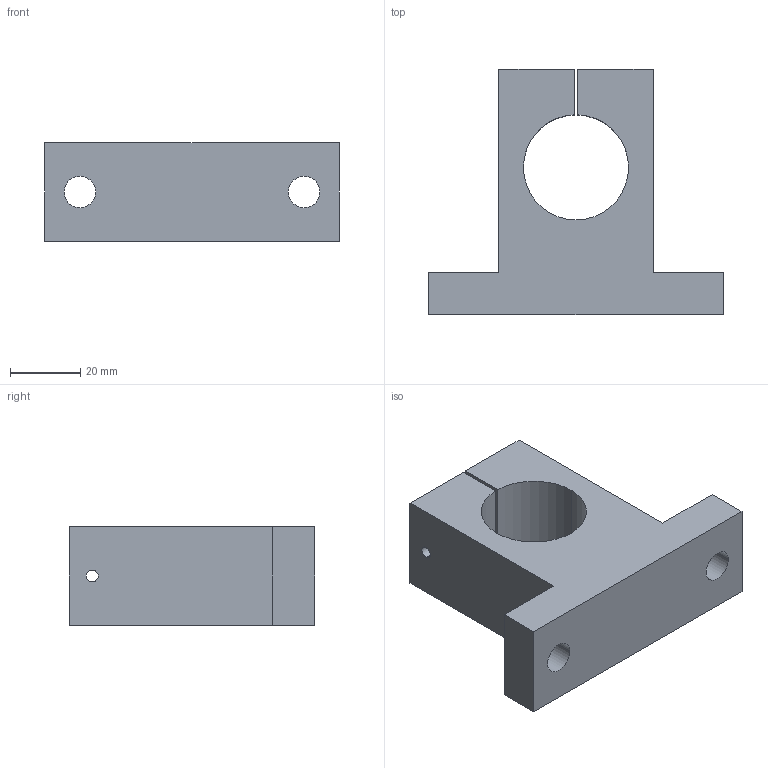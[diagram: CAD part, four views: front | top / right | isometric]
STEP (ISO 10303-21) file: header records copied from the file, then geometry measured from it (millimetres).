
FILE_DESCRIPTION((''),'2;1');
FILE_NAME('C:\Documents and Settings\ｿﾀﾀ蠑ｷ1\ｹﾙﾅﾁ ﾈｭｸ饅\ｺﾎﾇｰﾆﾄﾀﾏ\ﾁｦﾇｰ\SK\SK30.stp','2005-06-15T17:41:48',('ｿﾀﾀ蠑ｷ1'),(''),'Autodesk Inventor 9','Autodesk Inventor 9','');
FILE_SCHEMA(('AUTOMOTIVE_DESIGN { 1 0 10303 214 1 1 1 1 }'));
Length unit declared in the file: millimetre
Products named in the file (1): SK__
Bounding box: 84 x 70 x 28 mm (x, y, z)
Volume: 76810.4 mm3; surface area: 18687.4 mm2
Topology: 1 solids, 1 shells, 27 faces, 72 edges, 48 vertices
Faces by surface type: plane 13, bspline 11, cylinder 3
Entity records: 1021 total; most frequent: CARTESIAN_POINT 321, ORIENTED_EDGE 144, DIRECTION 132, EDGE_CURVE 72, VERTEX_POINT 48, VECTOR 46, LINE 46, AXIS2_PLACEMENT_3D 43
